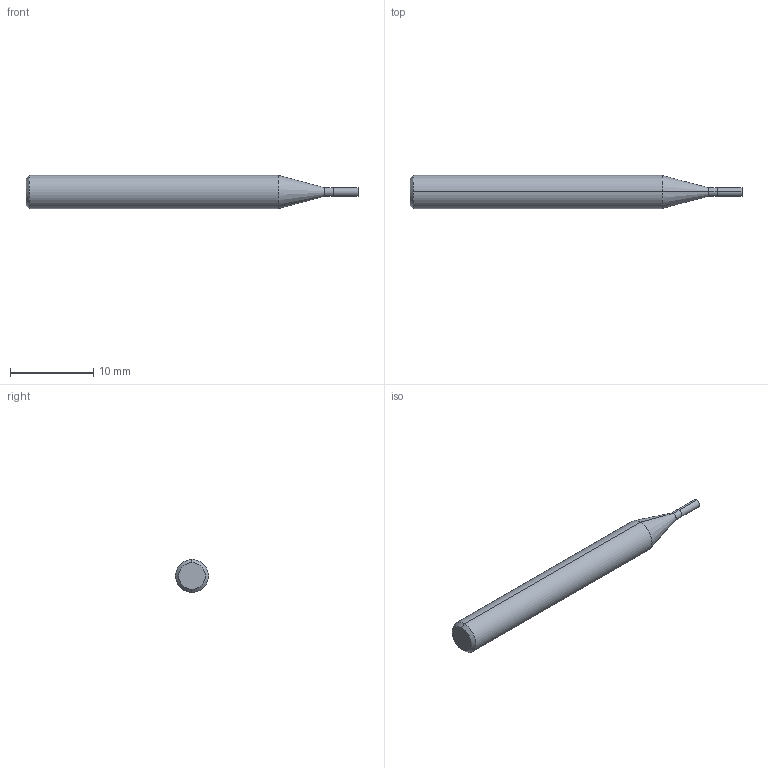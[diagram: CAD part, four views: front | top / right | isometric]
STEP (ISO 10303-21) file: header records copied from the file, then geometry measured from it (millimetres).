
FILE_DESCRIPTION (( 'STEP AP214' ), '1' );
FILE_NAME ('G9432010.STEP', '2018-07-02T09:18:49', ( '' ), ( '' ), 'SwSTEP 2.0', 'SolidWorks 2014', '' );
FILE_SCHEMA (( 'AUTOMOTIVE_DESIGN' ));
Length unit declared in the file: millimetre
Products named in the file (1): G9432010
Bounding box: 40 x 4 x 4 mm (x, y, z)
Volume: 415 mm3; surface area: 451.9 mm2
Topology: 2 solids, 2 shells, 14 faces, 24 edges, 14 vertices
Faces by surface type: cylinder 6, cone 4, plane 4
Entity records: 421 total; most frequent: DIRECTION 68, CARTESIAN_POINT 53, ORIENTED_EDGE 48, AXIS2_PLACEMENT_3D 29, EDGE_CURVE 24, VERTEX_POINT 14, EDGE_LOOP 14, ADVANCED_FACE 14
